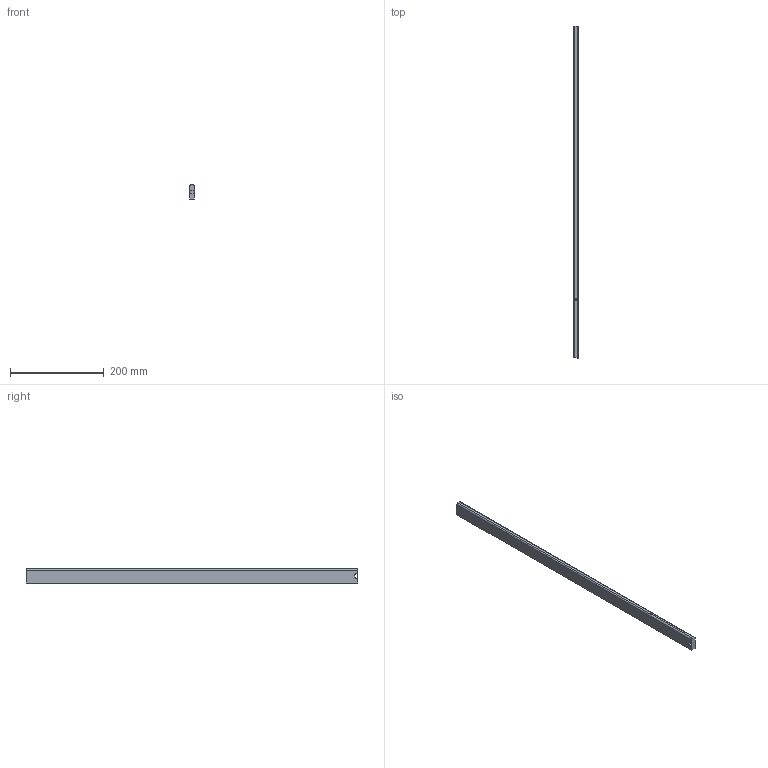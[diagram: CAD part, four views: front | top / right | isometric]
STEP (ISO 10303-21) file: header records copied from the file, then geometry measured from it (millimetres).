
FILE_DESCRIPTION (( 'STEP AP214' ), '1' );
FILE_NAME ('_Seitenreling_S760610200_RL710.step', '2010-09-06T14:51:49', ( 'grass' ), ( '' ), 'SwSTEP 2.0', 'SolidWorks 2010', '' );
FILE_SCHEMA (( 'AUTOMOTIVE_DESIGN' ));
Length unit declared in the file: millimetre
Products named in the file (1): _Seitenreling_S760610200_RL710
Bounding box: 10.5 x 710 x 30 mm (x, y, z)
Volume: 219519.7 mm3; surface area: 57022.9 mm2
Topology: 1 solids, 1 shells, 18 faces, 46 edges, 30 vertices
Faces by surface type: plane 10, cylinder 8
Entity records: 594 total; most frequent: DIRECTION 102, CARTESIAN_POINT 95, ORIENTED_EDGE 92, EDGE_CURVE 46, AXIS2_PLACEMENT_3D 37, VERTEX_POINT 30, VECTOR 28, LINE 28
